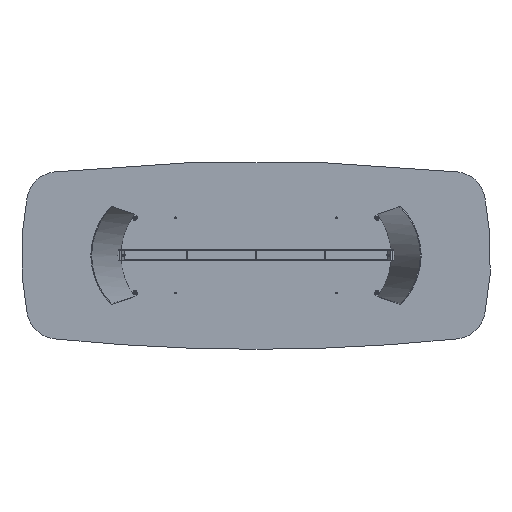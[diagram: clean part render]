
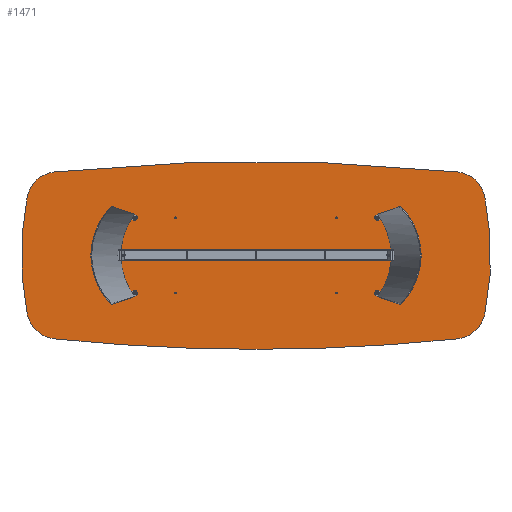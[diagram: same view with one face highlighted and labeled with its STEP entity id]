
A CAD part, front view. The second image highlights one B-rep face of the part: STEP entity #1471.
In plain terms, the highlighted planar face has unit normal (0, -1, 0).
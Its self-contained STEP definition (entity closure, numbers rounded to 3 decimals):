
#30 = CIRCLE ( 'NONE', #7992, 1900. ) ;
#97 = CIRCLE ( 'NONE', #3796, 12500. ) ;
#104 = VERTEX_POINT ( 'NONE', #7407 ) ;
#187 = CARTESIAN_POINT ( 'NONE',  ( -1287.344, 0., -533.533 ) ) ;
#223 = EDGE_CURVE ( 'NONE', #7388, #7536, #11178, .T. ) ;
#226 = DIRECTION ( 'NONE',  ( 0., 0., 1. ) ) ;
#257 = CIRCLE ( 'NONE', #9706, 12500. ) ;
#280 = DIRECTION ( 'NONE',  ( 0., 1., 0. ) ) ;
#355 = EDGE_CURVE ( 'NONE', #1211, #8724, #257, .T. ) ;
#460 = CARTESIAN_POINT ( 'NONE',  ( 1287.344, 0., -533.533 ) ) ;
#531 = DIRECTION ( 'NONE',  ( 0., 0., 1. ) ) ;
#610 = DIRECTION ( 'NONE',  ( 0., 0., 1. ) ) ;
#818 = EDGE_CURVE ( 'NONE', #3622, #1032, #8406, .T. ) ;
#1032 = VERTEX_POINT ( 'NONE', #187 ) ;
#1211 = VERTEX_POINT ( 'NONE', #3330 ) ;
#1236 = DIRECTION ( 'NONE',  ( 0., 0., 1. ) ) ;
#1345 = EDGE_CURVE ( 'NONE', #1211, #104, #4537, .T. ) ;
#1450 = CARTESIAN_POINT ( 'NONE',  ( -200., 0., 5950. ) ) ;
#1471 = ADVANCED_FACE ( 'NONE', ( #5856 ), #9384, .F. ) ;
#1473 = EDGE_CURVE ( 'NONE', #4569, #8542, #97, .T. ) ;
#1492 = CARTESIAN_POINT ( 'NONE',  ( -1266.747, 0., -334.597 ) ) ;
#1763 = DIRECTION ( 'NONE',  ( 0., -1., 0. ) ) ;
#2265 = ORIENTED_EDGE ( 'NONE', *, *, #1345, .T. ) ;
#2330 = AXIS2_PLACEMENT_3D ( 'NONE', #1450, #9442, #11347 ) ;
#2520 = CARTESIAN_POINT ( 'NONE',  ( 1287.344, 0., 533.533 ) ) ;
#2668 = ORIENTED_EDGE ( 'NONE', *, *, #355, .F. ) ;
#2672 = AXIS2_PLACEMENT_3D ( 'NONE', #3019, #280, #10079 ) ;
#3019 = CARTESIAN_POINT ( 'NONE',  ( -400., 0., 0. ) ) ;
#3252 = DIRECTION ( 'NONE',  ( 0., 0., 1. ) ) ;
#3323 = CARTESIAN_POINT ( 'NONE',  ( 400., 0., 0. ) ) ;
#3330 = CARTESIAN_POINT ( 'NONE',  ( -1287.344, 0., 533.533 ) ) ;
#3343 = DIRECTION ( 'NONE',  ( 0., -1., 0. ) ) ;
#3416 = AXIS2_PLACEMENT_3D ( 'NONE', #1492, #3343, #610 ) ;
#3428 = EDGE_CURVE ( 'NONE', #8542, #1032, #6716, .T. ) ;
#3622 = VERTEX_POINT ( 'NONE', #3948 ) ;
#3796 = AXIS2_PLACEMENT_3D ( 'NONE', #4273, #5141, #3252 ) ;
#3922 = ORIENTED_EDGE ( 'NONE', *, *, #818, .T. ) ;
#3948 = CARTESIAN_POINT ( 'NONE',  ( -1462.835, 0., -373.961 ) ) ;
#4131 = EDGE_CURVE ( 'NONE', #3622, #104, #30, .T. ) ;
#4273 = CARTESIAN_POINT ( 'NONE',  ( 0., 0., 11900. ) ) ;
#4407 = CIRCLE ( 'NONE', #9040, 200. ) ;
#4537 = CIRCLE ( 'NONE', #11010, 200. ) ;
#4569 = VERTEX_POINT ( 'NONE', #460 ) ;
#5141 = DIRECTION ( 'NONE',  ( 0., 1., 0. ) ) ;
#5230 = DIRECTION ( 'NONE',  ( 0., 0., 1. ) ) ;
#5519 = CARTESIAN_POINT ( 'NONE',  ( 1266.747, 0., -334.597 ) ) ;
#5856 = FACE_OUTER_BOUND ( 'NONE', #8075, .T. ) ;
#6076 = DIRECTION ( 'NONE',  ( 0., 1., 0. ) ) ;
#6449 = ORIENTED_EDGE ( 'NONE', *, *, #1473, .F. ) ;
#6453 = AXIS2_PLACEMENT_3D ( 'NONE', #10283, #7617, #9472 ) ;
#6716 = CIRCLE ( 'NONE', #7800, 12500. ) ;
#6801 = DIRECTION ( 'NONE',  ( 0., 1., 0. ) ) ;
#6836 = CARTESIAN_POINT ( 'NONE',  ( 0., 0., -11900. ) ) ;
#7013 = CARTESIAN_POINT ( 'NONE',  ( 1462.835, 0., -373.961 ) ) ;
#7044 = ORIENTED_EDGE ( 'NONE', *, *, #8575, .T. ) ;
#7388 = VERTEX_POINT ( 'NONE', #9736 ) ;
#7407 = CARTESIAN_POINT ( 'NONE',  ( -1462.835, 0., 373.961 ) ) ;
#7536 = VERTEX_POINT ( 'NONE', #7013 ) ;
#7617 = DIRECTION ( 'NONE',  ( 0., -1., 0. ) ) ;
#7725 = CARTESIAN_POINT ( 'NONE',  ( 0., 0., -600. ) ) ;
#7800 = AXIS2_PLACEMENT_3D ( 'NONE', #9103, #10724, #226 ) ;
#7975 = ORIENTED_EDGE ( 'NONE', *, *, #223, .F. ) ;
#7992 = AXIS2_PLACEMENT_3D ( 'NONE', #3323, #6801, #531 ) ;
#8011 = CARTESIAN_POINT ( 'NONE',  ( -1266.747, 0., 334.597 ) ) ;
#8025 = ORIENTED_EDGE ( 'NONE', *, *, #4131, .F. ) ;
#8075 = EDGE_LOOP ( 'NONE', ( #2668, #2265, #8025, #3922, #10543, #6449, #8558, #7975, #7044 ) ) ;
#8406 = CIRCLE ( 'NONE', #3416, 200. ) ;
#8542 = VERTEX_POINT ( 'NONE', #7725 ) ;
#8558 = ORIENTED_EDGE ( 'NONE', *, *, #8866, .T. ) ;
#8575 = EDGE_CURVE ( 'NONE', #7388, #8724, #9385, .T. ) ;
#8724 = VERTEX_POINT ( 'NONE', #2520 ) ;
#8866 = EDGE_CURVE ( 'NONE', #4569, #7536, #4407, .T. ) ;
#9040 = AXIS2_PLACEMENT_3D ( 'NONE', #5519, #10852, #1236 ) ;
#9103 = CARTESIAN_POINT ( 'NONE',  ( 0., 0., 11900. ) ) ;
#9384 = PLANE ( 'NONE',  #2330 ) ;
#9385 = CIRCLE ( 'NONE', #6453, 200. ) ;
#9442 = DIRECTION ( 'NONE',  ( 0., 1., 0. ) ) ;
#9472 = DIRECTION ( 'NONE',  ( 0., 0., 1. ) ) ;
#9706 = AXIS2_PLACEMENT_3D ( 'NONE', #6836, #6076, #11346 ) ;
#9736 = CARTESIAN_POINT ( 'NONE',  ( 1462.835, 0., 373.961 ) ) ;
#10079 = DIRECTION ( 'NONE',  ( 0., 0., 1. ) ) ;
#10283 = CARTESIAN_POINT ( 'NONE',  ( 1266.747, 0., 334.597 ) ) ;
#10543 = ORIENTED_EDGE ( 'NONE', *, *, #3428, .F. ) ;
#10724 = DIRECTION ( 'NONE',  ( 0., 1., 0. ) ) ;
#10852 = DIRECTION ( 'NONE',  ( 0., -1., 0. ) ) ;
#11010 = AXIS2_PLACEMENT_3D ( 'NONE', #8011, #1763, #5230 ) ;
#11178 = CIRCLE ( 'NONE', #2672, 1900. ) ;
#11346 = DIRECTION ( 'NONE',  ( 0., 0., 1. ) ) ;
#11347 = DIRECTION ( 'NONE',  ( 0., 0., 1. ) ) ;
